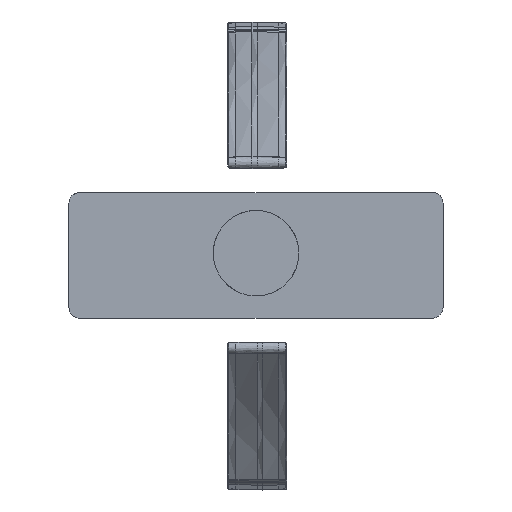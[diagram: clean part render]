
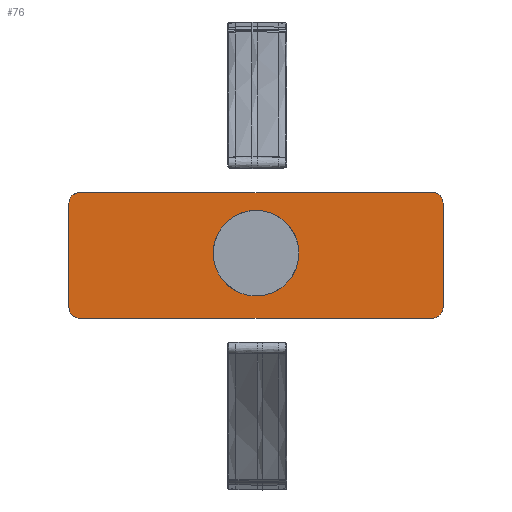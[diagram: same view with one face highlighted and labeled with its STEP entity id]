
A CAD part, top view. The second image highlights one B-rep face of the part: STEP entity #76.
In plain terms, the highlighted planar face has unit normal (0, 0, 1).
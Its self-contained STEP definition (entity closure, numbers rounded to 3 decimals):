
#57=FACE_BOUND('',#1351,.T.);
#76=ADVANCED_FACE('',(#713,#57),#9173,.T.);
#713=FACE_OUTER_BOUND('',#1350,.T.);
#1350=EDGE_LOOP('',(#2022,#2023,#2024,#2025,#2026,#2027,#2028,#2029,#2030,
#2031));
#1351=EDGE_LOOP('',(#2032,#2033));
#2022=ORIENTED_EDGE('',*,*,#4949,.F.);
#2023=ORIENTED_EDGE('',*,*,#4924,.F.);
#2024=ORIENTED_EDGE('',*,*,#4931,.T.);
#2025=ORIENTED_EDGE('',*,*,#4923,.F.);
#2026=ORIENTED_EDGE('',*,*,#4950,.T.);
#2027=ORIENTED_EDGE('',*,*,#4937,.F.);
#2028=ORIENTED_EDGE('',*,*,#4944,.T.);
#2029=ORIENTED_EDGE('',*,*,#4928,.F.);
#2030=ORIENTED_EDGE('',*,*,#4919,.T.);
#2031=ORIENTED_EDGE('',*,*,#4935,.F.);
#2032=ORIENTED_EDGE('',*,*,#4946,.T.);
#2033=ORIENTED_EDGE('',*,*,#4942,.T.);
#4919=EDGE_CURVE('',#7849,#7851,#7133,.T.);
#4923=EDGE_CURVE('',#7855,#7852,#7137,.T.);
#4924=EDGE_CURVE('',#7856,#7857,#7138,.T.);
#4928=EDGE_CURVE('',#7849,#7860,#6382,.T.);
#4931=EDGE_CURVE('',#7856,#7852,#6384,.T.);
#4935=EDGE_CURVE('',#7863,#7851,#6387,.T.);
#4937=EDGE_CURVE('',#7865,#7866,#6388,.T.);
#4942=EDGE_CURVE('',#7871,#7870,#6391,.T.);
#4944=EDGE_CURVE('',#7865,#7860,#7148,.T.);
#4946=EDGE_CURVE('',#7870,#7871,#6392,.T.);
#4949=EDGE_CURVE('',#7857,#7863,#6395,.T.);
#4950=EDGE_CURVE('',#7855,#7866,#6396,.T.);
#6382=(
BOUNDED_CURVE()
B_SPLINE_CURVE(2,(#9856,#9857,#9858),.UNSPECIFIED.,.F.,.F.)
B_SPLINE_CURVE_WITH_KNOTS((3,3),(-3.142,0.),.UNSPECIFIED.)
CURVE()
GEOMETRIC_REPRESENTATION_ITEM()
RATIONAL_B_SPLINE_CURVE((1.,0.707,1.))
REPRESENTATION_ITEM('')
);
#6384=(
BOUNDED_CURVE()
B_SPLINE_CURVE(2,(#9864,#9865,#9866),.UNSPECIFIED.,.F.,.F.)
B_SPLINE_CURVE_WITH_KNOTS((3,3),(0.,3.142),.UNSPECIFIED.)
CURVE()
GEOMETRIC_REPRESENTATION_ITEM()
RATIONAL_B_SPLINE_CURVE((1.,0.707,1.))
REPRESENTATION_ITEM('')
);
#6387=(
BOUNDED_CURVE()
B_SPLINE_CURVE(2,(#9875,#9876,#9877),.UNSPECIFIED.,.F.,.F.)
B_SPLINE_CURVE_WITH_KNOTS((3,3),(-2.094,0.),.UNSPECIFIED.)
CURVE()
GEOMETRIC_REPRESENTATION_ITEM()
RATIONAL_B_SPLINE_CURVE((1.,0.866,1.))
REPRESENTATION_ITEM('')
);
#6388=(
BOUNDED_CURVE()
B_SPLINE_CURVE(2,(#9880,#9881,#9882),.UNSPECIFIED.,.F.,.F.)
B_SPLINE_CURVE_WITH_KNOTS((3,3),(-1.047,0.),.UNSPECIFIED.)
CURVE()
GEOMETRIC_REPRESENTATION_ITEM()
RATIONAL_B_SPLINE_CURVE((1.,0.966,1.))
REPRESENTATION_ITEM('')
);
#6391=(
BOUNDED_CURVE()
B_SPLINE_CURVE(2,(#9895,#9896,#9897,#9898,#9899),.UNSPECIFIED.,.F.,.F.)
B_SPLINE_CURVE_WITH_KNOTS((3,2,3),(-7.069,-3.534,
0.),.UNSPECIFIED.)
CURVE()
GEOMETRIC_REPRESENTATION_ITEM()
RATIONAL_B_SPLINE_CURVE((1.,0.707,1.,0.707,1.))
REPRESENTATION_ITEM('')
);
#6392=(
BOUNDED_CURVE()
B_SPLINE_CURVE(2,(#9906,#9907,#9908,#9909,#9910),.UNSPECIFIED.,.F.,.F.)
B_SPLINE_CURVE_WITH_KNOTS((3,2,3),(-7.069,-3.534,
0.),.UNSPECIFIED.)
CURVE()
GEOMETRIC_REPRESENTATION_ITEM()
RATIONAL_B_SPLINE_CURVE((1.,0.707,1.,0.707,1.))
REPRESENTATION_ITEM('')
);
#6395=(
BOUNDED_CURVE()
B_SPLINE_CURVE(2,(#9919,#9920,#9921),.UNSPECIFIED.,.F.,.F.)
B_SPLINE_CURVE_WITH_KNOTS((3,3),(-1.047,0.),.UNSPECIFIED.)
CURVE()
GEOMETRIC_REPRESENTATION_ITEM()
RATIONAL_B_SPLINE_CURVE((1.,0.966,1.))
REPRESENTATION_ITEM('')
);
#6396=(
BOUNDED_CURVE()
B_SPLINE_CURVE(2,(#9922,#9923,#9924),.UNSPECIFIED.,.F.,.F.)
B_SPLINE_CURVE_WITH_KNOTS((3,3),(0.,2.094),.UNSPECIFIED.)
CURVE()
GEOMETRIC_REPRESENTATION_ITEM()
RATIONAL_B_SPLINE_CURVE((1.,0.866,1.))
REPRESENTATION_ITEM('')
);
#7133=B_SPLINE_CURVE_WITH_KNOTS('',1,(#9838,#9839),.UNSPECIFIED.,.F.,.F.,
(2,2),(-66.,0.),.UNSPECIFIED.);
#7137=B_SPLINE_CURVE_WITH_KNOTS('',1,(#9846,#9847),.UNSPECIFIED.,.F.,.F.,
(2,2),(-66.,0.),.UNSPECIFIED.);
#7138=B_SPLINE_CURVE_WITH_KNOTS('',1,(#9848,#9849),.UNSPECIFIED.,.F.,.F.,
(2,2),(-19.5,0.),.UNSPECIFIED.);
#7148=B_SPLINE_CURVE_WITH_KNOTS('',1,(#9902,#9903),.UNSPECIFIED.,.F.,.F.,
(2,2),(-19.5,0.),.UNSPECIFIED.);
#7849=VERTEX_POINT('',#9809);
#7851=VERTEX_POINT('',#9811);
#7852=VERTEX_POINT('',#9812);
#7855=VERTEX_POINT('',#9815);
#7856=VERTEX_POINT('',#9816);
#7857=VERTEX_POINT('',#9817);
#7860=VERTEX_POINT('',#9820);
#7863=VERTEX_POINT('',#9823);
#7865=VERTEX_POINT('',#9825);
#7866=VERTEX_POINT('',#9826);
#7870=VERTEX_POINT('',#9830);
#7871=VERTEX_POINT('',#9831);
#9173=PLANE('',#9346);
#9346=AXIS2_PLACEMENT_3D('',#9751,#9503,$);
#9503=DIRECTION('',(0.,0.,1.));
#9751=CARTESIAN_POINT('',(-42.809,-14.909,-181.3));
#9809=CARTESIAN_POINT('',(33.,11.75,-181.3));
#9811=CARTESIAN_POINT('',(-33.,11.75,-181.3));
#9812=CARTESIAN_POINT('',(-33.,-11.75,-181.3));
#9815=CARTESIAN_POINT('',(33.,-11.75,-181.3));
#9816=CARTESIAN_POINT('',(-35.,-9.75,-181.3));
#9817=CARTESIAN_POINT('',(-35.,9.75,-181.3));
#9820=CARTESIAN_POINT('',(35.,9.75,-181.3));
#9823=CARTESIAN_POINT('',(-34.732,10.75,-181.3));
#9825=CARTESIAN_POINT('',(35.,-9.75,-181.3));
#9826=CARTESIAN_POINT('',(34.732,-10.75,-181.3));
#9830=CARTESIAN_POINT('',(-2.25,0.,-181.3));
#9831=CARTESIAN_POINT('',(2.25,0.,-181.3));
#9838=CARTESIAN_POINT('',(33.,11.75,-181.3));
#9839=CARTESIAN_POINT('',(-33.,11.75,-181.3));
#9846=CARTESIAN_POINT('',(33.,-11.75,-181.3));
#9847=CARTESIAN_POINT('',(-33.,-11.75,-181.3));
#9848=CARTESIAN_POINT('',(-35.,-9.75,-181.3));
#9849=CARTESIAN_POINT('',(-35.,9.75,-181.3));
#9856=CARTESIAN_POINT('',(33.,11.75,-181.3));
#9857=CARTESIAN_POINT('',(35.,11.75,-181.3));
#9858=CARTESIAN_POINT('',(35.,9.75,-181.3));
#9864=CARTESIAN_POINT('',(-35.,-9.75,-181.3));
#9865=CARTESIAN_POINT('',(-35.,-11.75,-181.3));
#9866=CARTESIAN_POINT('',(-33.,-11.75,-181.3));
#9875=CARTESIAN_POINT('',(-34.732,10.75,-181.3));
#9876=CARTESIAN_POINT('',(-34.155,11.75,-181.3));
#9877=CARTESIAN_POINT('',(-33.,11.75,-181.3));
#9880=CARTESIAN_POINT('',(35.,-9.75,-181.3));
#9881=CARTESIAN_POINT('',(35.,-10.286,-181.3));
#9882=CARTESIAN_POINT('',(34.732,-10.75,-181.3));
#9895=CARTESIAN_POINT('',(2.25,0.,-181.3));
#9896=CARTESIAN_POINT('',(2.25,-2.25,-181.3));
#9897=CARTESIAN_POINT('',(0.,-2.25,-181.3));
#9898=CARTESIAN_POINT('',(-2.25,-2.25,-181.3));
#9899=CARTESIAN_POINT('',(-2.25,0.,-181.3));
#9902=CARTESIAN_POINT('',(35.,-9.75,-181.3));
#9903=CARTESIAN_POINT('',(35.,9.75,-181.3));
#9906=CARTESIAN_POINT('',(-2.25,0.,-181.3));
#9907=CARTESIAN_POINT('',(-2.25,2.25,-181.3));
#9908=CARTESIAN_POINT('',(0.,2.25,-181.3));
#9909=CARTESIAN_POINT('',(2.25,2.25,-181.3));
#9910=CARTESIAN_POINT('',(2.25,0.,-181.3));
#9919=CARTESIAN_POINT('',(-35.,9.75,-181.3));
#9920=CARTESIAN_POINT('',(-35.,10.286,-181.3));
#9921=CARTESIAN_POINT('',(-34.732,10.75,-181.3));
#9922=CARTESIAN_POINT('',(33.,-11.75,-181.3));
#9923=CARTESIAN_POINT('',(34.155,-11.75,-181.3));
#9924=CARTESIAN_POINT('',(34.732,-10.75,-181.3));
